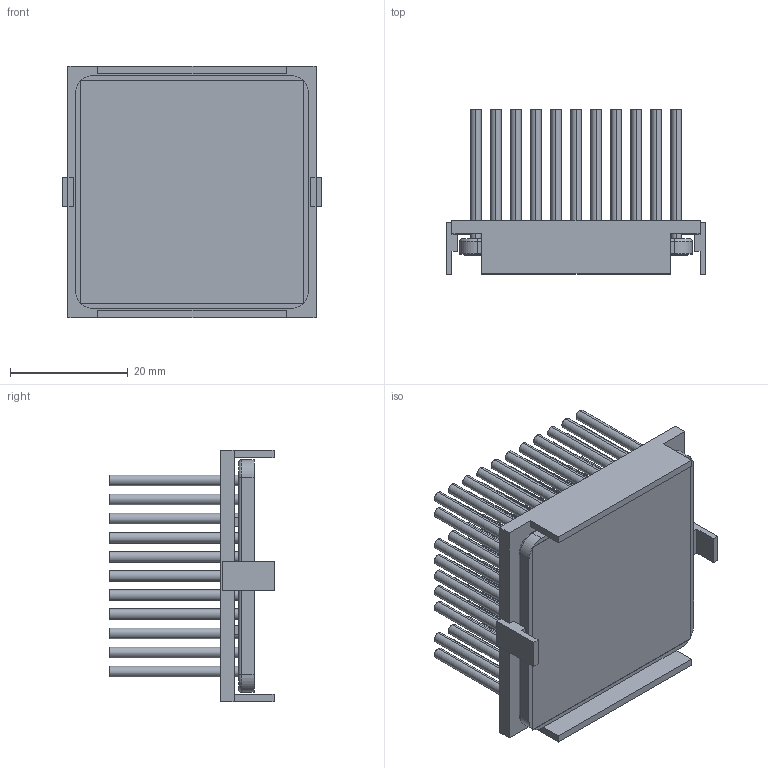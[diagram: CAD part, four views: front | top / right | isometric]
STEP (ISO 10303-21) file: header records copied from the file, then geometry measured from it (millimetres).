
FILE_DESCRIPTION (( 'STEP AP214' ), '1' );
FILE_NAME ('INM40002-25PCU-2.6Y.STEP', '2023-02-27T17:58:08', ( '' ), ( '' ), 'SwSTEP 2.0', 'SolidWorks 2020', '' );
FILE_SCHEMA (( 'AUTOMOTIVE_DESIGN' ));
Length unit declared in the file: inch
Products named in the file (1): INM40002-25PCU-2.6Y
Bounding box: 44.2 x 28.1 x 42.7 mm (x, y, z)
Volume: 12544.2 mm3; surface area: 23558.4 mm2
Topology: 3 solids, 3 shells, 421 faces, 898 edges, 596 vertices
Faces by surface type: cylinder 234, plane 183, torus 4
Entity records: 17099 total; most frequent: DIRECTION 2214, CARTESIAN_POINT 1916, ORIENTED_EDGE 1796, EDGE_CURVE 898, AXIS2_PLACEMENT_3D 894, VERTEX_POINT 596, EDGE_LOOP 536, CIRCLE 472
